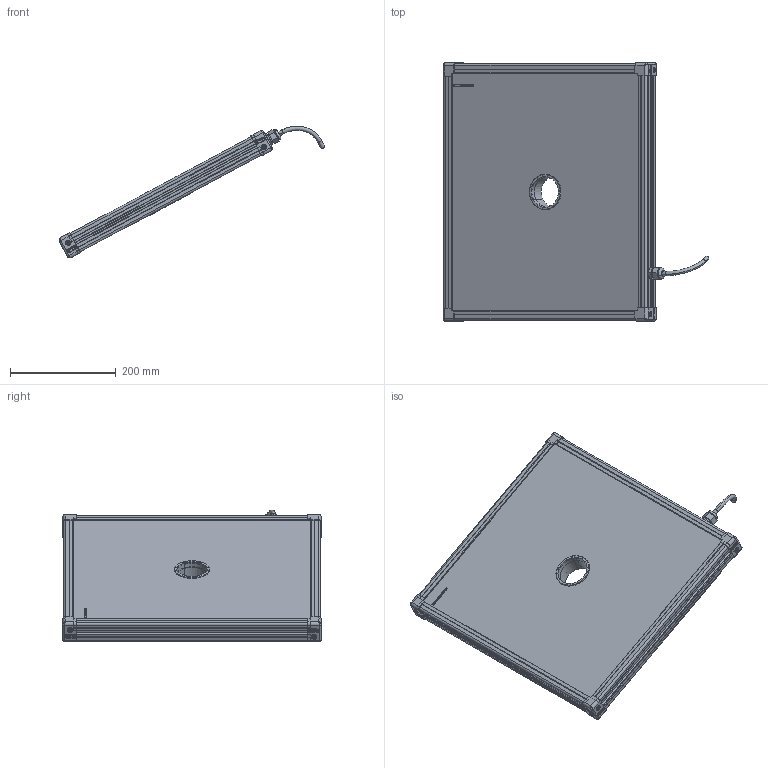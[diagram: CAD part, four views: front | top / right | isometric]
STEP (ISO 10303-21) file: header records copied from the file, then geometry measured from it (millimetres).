
FILE_DESCRIPTION (( 'STEP AP214' ), '1' );
FILE_NAME ('EFFI-BL-400-450-ZZZ-1M12P.STEP', '2021-06-21T08:52:14', ( '' ), ( '' ), 'SwSTEP 2.0', 'SolidWorks 2021', '' );
FILE_SCHEMA (( 'AUTOMOTIVE_DESIGN' ));
Length unit declared in the file: millimetre
Products named in the file (13): M12 power_AVEC CABLE D8.1; petite joue + vis; EFFI-BL-400-450-ZZZ-1M12P; 001037; Pièce13^EFFI-BL-XXX-YYY-ZZZ (1 connecteur) M12POWER Ø58.5; profile X_PERCE; 001038; 000629; profile Y_PERCE; Assemblage Ø58.5; 000590; petite joue
Assembly tree (19 placements, depth 3):
  EFFI-BL-400-450-ZZZ-1M12P
    profile X_PERCE  x2
    profile Y_PERCE
    profile Y_PERCE
    Pièce13^EFFI-BL-XXX-YYY-ZZZ (1 connecteur) M12POWER Ø58.5
    petite joue + vis  x4
      petite joue
      000629
    M12 power_AVEC CABLE D8.1
    Assemblage Ø58.5
      001037
      001038
      000590  x3
Bounding box: 503.1 x 489 x 249.72 mm (x, y, z)
Volume: 7345653 mm3; surface area: 735325.2 mm2
Topology: 22 solids, 25 shells, 3946 faces, 10510 edges, 6901 vertices
Faces by surface type: plane 2446, cylinder 718, bspline 591, cone 154, torus 29, sphere 8
Entity records: 55870 total; most frequent: CARTESIAN_POINT 22540, ORIENTED_EDGE 6994, DIRECTION 5720, EDGE_CURVE 3499, LINE 2454, VECTOR 2454, VERTEX_POINT 2302, AXIS2_PLACEMENT_3D 1633
